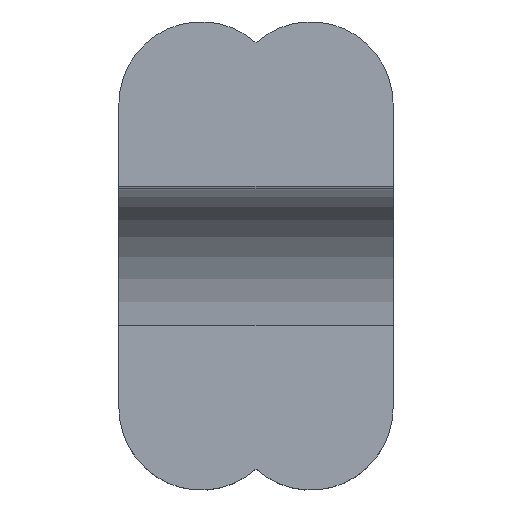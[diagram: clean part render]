
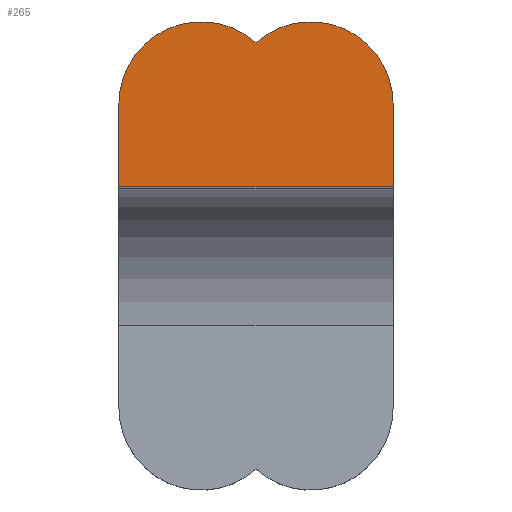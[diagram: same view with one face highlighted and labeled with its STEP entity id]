
A CAD part, top view. The second image highlights one B-rep face of the part: STEP entity #265.
In plain terms, the highlighted planar face has unit normal (0, 0, 1).
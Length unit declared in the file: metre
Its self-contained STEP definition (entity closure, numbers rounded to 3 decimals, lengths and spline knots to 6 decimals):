
#41=LINE('',#499,#59);
#43=LINE('',#503,#61);
#45=LINE('',#507,#63);
#59=VECTOR('',#422,1.);
#61=VECTOR('',#426,1.);
#63=VECTOR('',#430,1.);
#132=ORIENTED_EDGE('',*,*,#172,.T.);
#133=ORIENTED_EDGE('',*,*,#170,.T.);
#134=ORIENTED_EDGE('',*,*,#168,.T.);
#135=ORIENTED_EDGE('',*,*,#166,.T.);
#136=ORIENTED_EDGE('',*,*,#164,.T.);
#164=EDGE_CURVE('',#191,#190,#211,.T.);
#166=EDGE_CURVE('',#192,#191,#41,.T.);
#168=EDGE_CURVE('',#193,#192,#43,.T.);
#170=EDGE_CURVE('',#194,#193,#45,.T.);
#172=EDGE_CURVE('',#190,#194,#212,.T.);
#190=VERTEX_POINT('',#494);
#191=VERTEX_POINT('',#496);
#192=VERTEX_POINT('',#500);
#193=VERTEX_POINT('',#504);
#194=VERTEX_POINT('',#508);
#211=CIRCLE('',#343,0.003);
#212=CIRCLE('',#348,0.003);
#228=EDGE_LOOP('',(#132,#133,#134,#135,#136));
#244=FACE_BOUND('',#228,.T.);
#249=PLANE('',#349);
#265=ADVANCED_FACE('',(#244),#249,.T.);
#343=AXIS2_PLACEMENT_3D('',#495,#417,#418);
#348=AXIS2_PLACEMENT_3D('',#511,#434,#435);
#349=AXIS2_PLACEMENT_3D('',#512,#436,#437);
#417=DIRECTION('',(0.,0.,1.));
#418=DIRECTION('',(0.707,0.707,0.));
#422=DIRECTION('',(0.,1.,0.));
#426=DIRECTION('',(1.,0.,0.));
#430=DIRECTION('',(0.,-1.,0.));
#434=DIRECTION('',(0.,0.,1.));
#435=DIRECTION('',(-1.,0.,0.));
#436=DIRECTION('',(0.,0.,1.));
#437=DIRECTION('',(1.,0.,0.));
#494=CARTESIAN_POINT('',(0.01,0.055236,-0.105));
#495=CARTESIAN_POINT('',(0.012,0.053,-0.105));
#496=CARTESIAN_POINT('',(0.015,0.053,-0.105));
#499=CARTESIAN_POINT('',(0.015,0.05,-0.105));
#500=CARTESIAN_POINT('',(0.015,0.05,-0.105));
#503=CARTESIAN_POINT('',(0.015,0.05,-0.105));
#504=CARTESIAN_POINT('',(0.005,0.05,-0.105));
#507=CARTESIAN_POINT('',(0.005,0.05,-0.105));
#508=CARTESIAN_POINT('',(0.005,0.053,-0.105));
#511=CARTESIAN_POINT('',(0.008,0.053,-0.105));
#512=CARTESIAN_POINT('',(0.005,0.05,-0.105));
